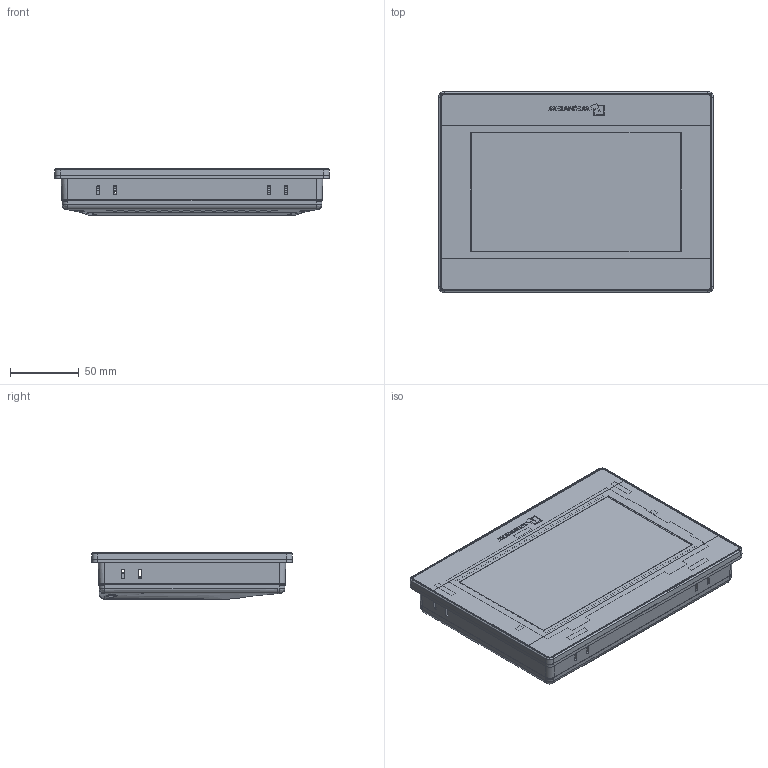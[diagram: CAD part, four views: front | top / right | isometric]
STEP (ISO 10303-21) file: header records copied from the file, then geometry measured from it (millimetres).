
FILE_DESCRIPTION (( 'STEP AP203' ), '1' );
FILE_NAME ('TK8071iP.STEP', '2019-06-10T09:30:45', ( 'Annayang' ), ( '' ), 'SwSTEP 2.0', 'SolidWorks 2011', '' );
FILE_SCHEMA (( 'CONFIG_CONTROL_DESIGN' ));
Products named in the file (1): TK8071iP
Bounding box: 200.4 x 146.5 x 34.2 mm (x, y, z)
Surface area: 99240.1 mm2 (no closed solid volume)
Topology: 0 solids, 76 shells, 931 faces, 3794 edges, 2793 vertices
Faces by surface type: cylinder 327, plane 299, bspline 232, cone 41, sphere 26, torus 6
Entity records: 65756 total; most frequent: CARTESIAN_POINT 38819, ORIENTED_EDGE 5696, DIRECTION 4195, EDGE_CURVE 3749, VERTEX_POINT 2775, LINE 1927, VECTOR 1927, AXIS2_PLACEMENT_3D 1134
